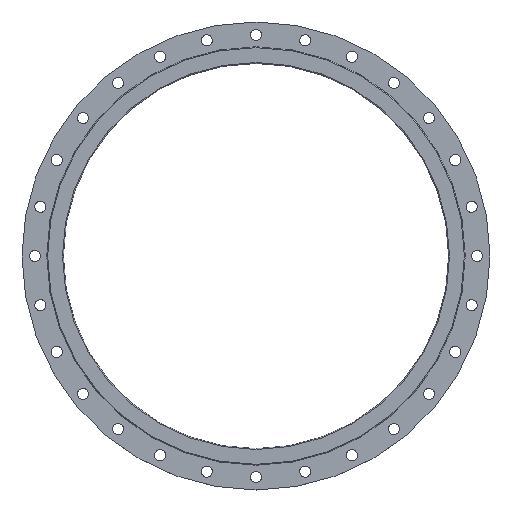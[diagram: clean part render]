
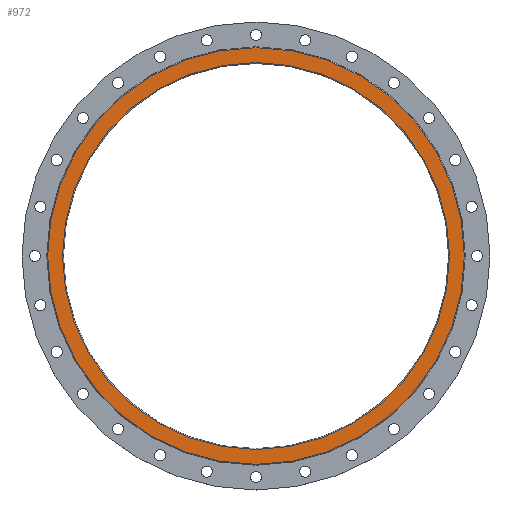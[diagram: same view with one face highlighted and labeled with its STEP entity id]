
A CAD part, top view. The second image highlights one B-rep face of the part: STEP entity #972.
In plain terms, the highlighted planar face has unit normal (0, 0, 1).
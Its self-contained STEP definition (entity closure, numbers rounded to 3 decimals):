
#46=FACE_BOUND('',#185,.T.);
#78=PLANE('',#1126);
#116=FACE_OUTER_BOUND('',#184,.T.);
#184=EDGE_LOOP('',(#849,#850));
#185=EDGE_LOOP('',(#851));
#372=CIRCLE('',#1112,731.);
#373=CIRCLE('',#1113,731.);
#378=CIRCLE('',#1120,678.8);
#477=VERTEX_POINT('',#1692);
#478=VERTEX_POINT('',#1693);
#483=VERTEX_POINT('',#1707);
#608=EDGE_CURVE('',#477,#478,#372,.T.);
#609=EDGE_CURVE('',#478,#477,#373,.T.);
#615=EDGE_CURVE('',#483,#483,#378,.T.);
#849=ORIENTED_EDGE('',*,*,#608,.T.);
#850=ORIENTED_EDGE('',*,*,#609,.T.);
#851=ORIENTED_EDGE('',*,*,#615,.F.);
#972=ADVANCED_FACE('',(#116,#46),#78,.T.);
#1112=AXIS2_PLACEMENT_3D('',#1694,#1399,#1400);
#1113=AXIS2_PLACEMENT_3D('',#1695,#1401,#1402);
#1120=AXIS2_PLACEMENT_3D('',#1708,#1416,#1417);
#1126=AXIS2_PLACEMENT_3D('',#1718,#1429,#1430);
#1399=DIRECTION('center_axis',(0.,0.,1.));
#1400=DIRECTION('ref_axis',(1.,0.,0.));
#1401=DIRECTION('center_axis',(0.,0.,1.));
#1402=DIRECTION('ref_axis',(1.,0.,0.));
#1416=DIRECTION('center_axis',(0.,0.,1.));
#1417=DIRECTION('ref_axis',(-1.,0.,0.));
#1429=DIRECTION('center_axis',(0.,0.,1.));
#1430=DIRECTION('ref_axis',(1.,0.,0.));
#1692=CARTESIAN_POINT('',(731.,0.,0.));
#1693=CARTESIAN_POINT('',(-731.,0.,0.));
#1694=CARTESIAN_POINT('Origin',(0.,0.,0.));
#1695=CARTESIAN_POINT('Origin',(0.,0.,0.));
#1707=CARTESIAN_POINT('',(678.8,0.,0.));
#1708=CARTESIAN_POINT('Origin',(0.,0.,0.));
#1718=CARTESIAN_POINT('Origin',(0.,0.,0.));
